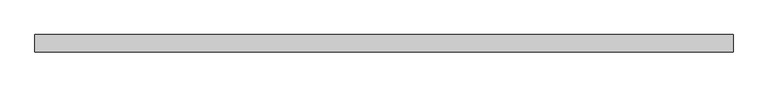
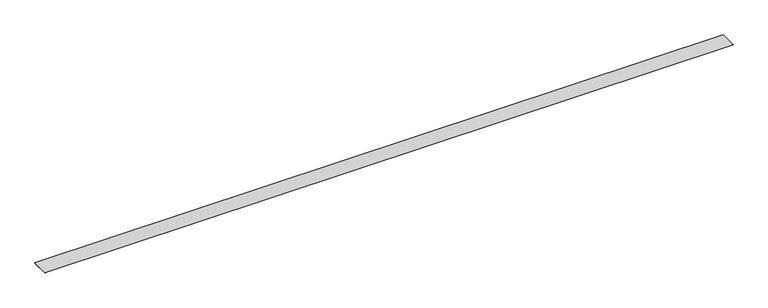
"""IFC4 building model written with IfcOpenShell, lengths in millimetres: proxy geometry, Sika® CarboDur® M914 : Sika® CarboDur® S1012."""

from ifc_helpers import new_model, si_unit, origin, origin_with_axes, place, context, project, spatial, polyline, outline, extrude, source, transform, mapped, element, save


def generic_models_691fac9f(model_context):
    return source(origin(), model_context, "Body", "SweptSolid", [
        extrude(outline(polyline([(2012.6978392, 50.0), (2012.6978392, -50.0), (-2012.6978392, -50.0), (-2012.6978392, 50.0), (2012.6978392, 50.0)])), origin_with_axes(), (0.0, 0.0, 1.0), 1.2),
    ])


if __name__ == "__main__":
    model = new_model("IFC4")
    model_context = context("Model", 3, world=origin())
    ifc_project = project(units=[si_unit("LENGTHUNIT", "METRE", prefix="MILLI")], contexts=[model_context])
    site = spatial("IfcSite", under=ifc_project)
    building = spatial("IfcBuilding", under=site)
    placement = place(None, origin())
    generic_models_shape = generic_models_691fac9f(model_context)
    element("IfcBuildingElementProxy", 1, Name="Sika® CarboDur® M914 : Sika® CarboDur® S1012", ObjectType="Sika® CarboDur® M914 : Sika® CarboDur® S1012", at=placement, inside=building, context=model_context, shape_type="MappedRepresentation", body=[
        mapped(generic_models_shape, transform((0.0, 0.0, 0.0), x_axis=(1.0, 0.0, 0.0), y_axis=(0.0, 1.0, 0.0), z_axis=(0.0, 0.0, 1.0))),
    ])
    save(model, "model.ifc")
